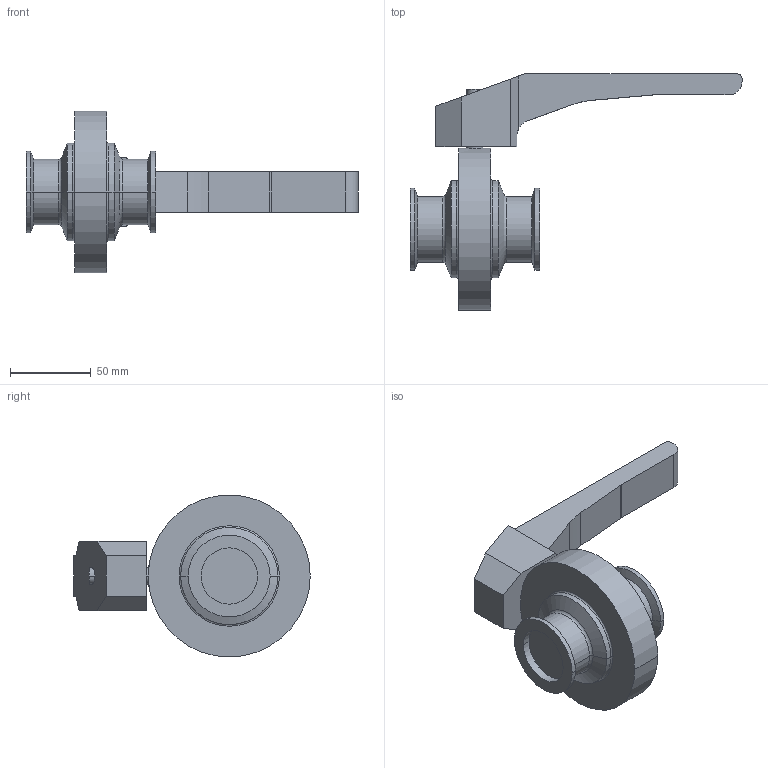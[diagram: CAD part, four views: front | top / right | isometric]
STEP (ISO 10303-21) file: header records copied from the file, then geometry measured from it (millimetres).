
FILE_DESCRIPTION(('OneSpaceDesigner STEP Export'),'2;1');
FILE_NAME('SV1-1.5zoll-H-12CL-vereint.stp','2007-04-20T11:25:36',(''),(''),'OneSpace Designer STEP processor for AP214 (Solid Model)','OneSpace Modeling 15.00 06-Feb-2007 (C) CoCreate Software GmbH','');
FILE_SCHEMA(('AUTOMOTIVE_DESIGN { 1 0 10303 214 1 1 1 1 }'));
Length unit declared in the file: millimetre
Products named in the file (3): Handhebel-SV-40-100; SV1-1.5zoll-H-12CL; SV1-1.5zoll-H-12CL-vereint
Assembly tree (2 placements, depth 2):
  SV1-1.5zoll-H-12CL-vereint
    SV1-1.5zoll-H-12CL
    Handhebel-SV-40-100
Bounding box: 205 x 146 x 100 mm (x, y, z)
Volume: 377256.8 mm3; surface area: 54074.4 mm2
Topology: 2 solids, 2 shells, 68 faces, 151 edges, 92 vertices
Faces by surface type: cylinder 27, plane 25, cone 8, torus 8
Entity records: 2115 total; most frequent: CARTESIAN_POINT 659, ORIENTED_EDGE 302, DIRECTION 271, EDGE_CURVE 151, AXIS2_PLACEMENT_3D 97, VERTEX_POINT 92, VECTOR 77, LINE 77
